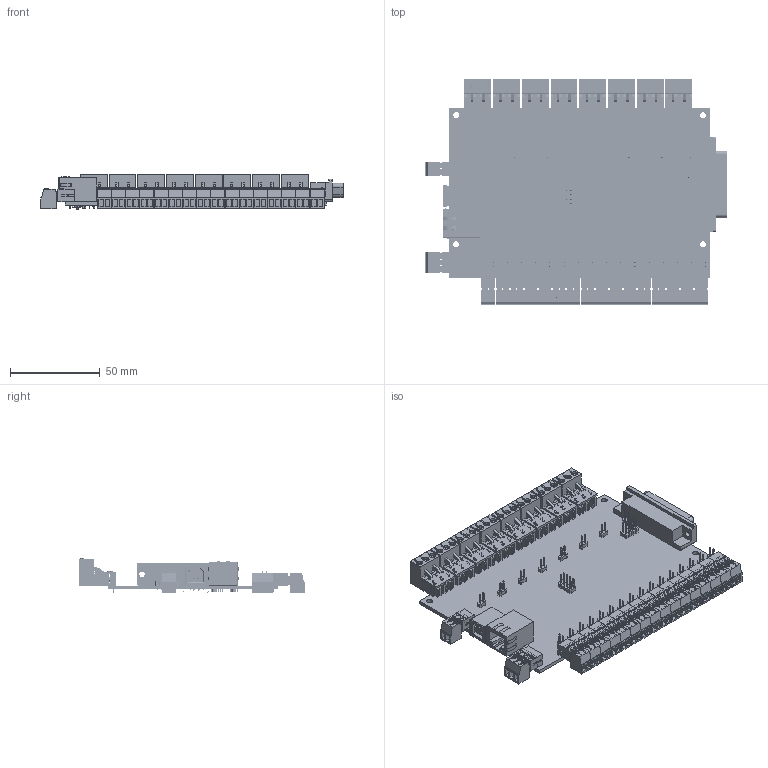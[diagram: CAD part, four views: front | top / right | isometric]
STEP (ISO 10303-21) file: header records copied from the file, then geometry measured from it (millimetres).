
FILE_DESCRIPTION(('STEP AP203'), '1');
FILE_NAME('扻艜豂錭歑 PLCM-E4_1', '', ('UNSPECIFIED'), ('UNSPECIFIED'), 'ASCON STEP Converter 1.6', 'ASCON Math Kernel', '');
FILE_SCHEMA(('CONFIG_CONTROL_DESIGN'));
Length unit declared in the file: millimetre
Products named in the file (12): Системная; Прямой; 15EDGK-3.5-03P-14-00A(H); 3; 15EDGRC-3.5
Assembly tree (88 placements, depth 2):
  (unnamed)
    Системная
    (unnamed)  x8
    (unnamed)
    Прямой  x32
    (unnamed)  x17
    15EDGK-3.5-03P-14-00A(H)
    (unnamed)
    (unnamed)
    3  x8
    15EDGRC-3.5
    (unnamed)  x17
Bounding box: 168.4 x 125.7 x 19.52 mm (x, y, z)
Volume: 83481.9 mm3; surface area: 92448.1 mm2
Topology: 91 solids, 91 shells, 12683 faces, 34538 edges, 22767 vertices
Faces by surface type: plane 9766, cylinder 2905, bspline 12
Full cylindrical faces by diameter (mm): 0.8 x25, 2 x37, 2.5 x85, 3 x2, 3.3 x4, 3.5 x24
Entity records: 80081 total; most frequent: CARTESIAN_POINT 12412, ORIENTED_EDGE 10376, DIRECTION 10210, EDGE_CURVE 5188, LINE 4134, VECTOR 4134, VERTEX_POINT 3454, AXIS2_PLACEMENT_3D 3038
